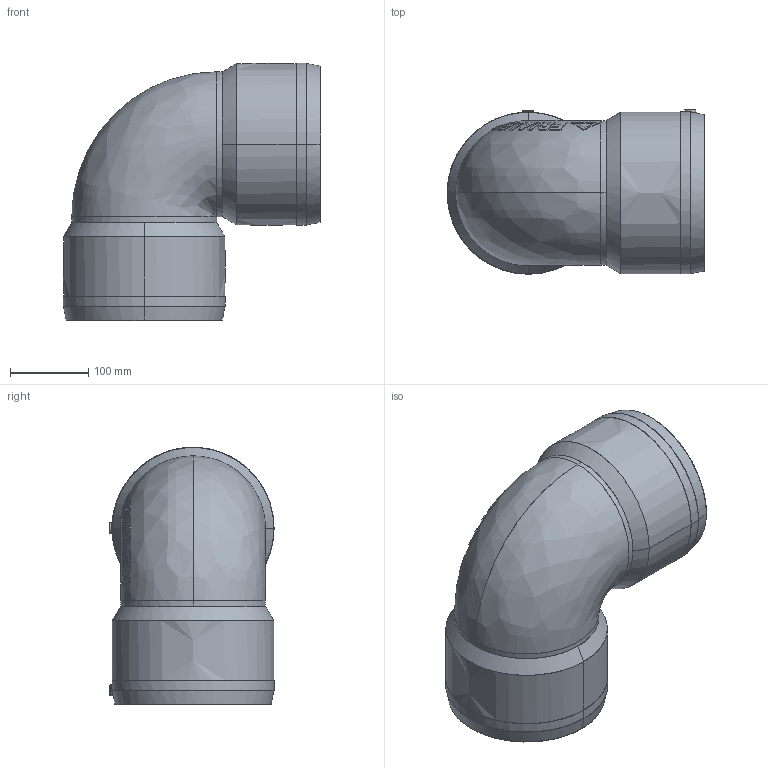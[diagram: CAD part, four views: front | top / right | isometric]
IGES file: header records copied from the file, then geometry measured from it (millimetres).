
Start section:  PTC IGES file: w90_d160_01.igs
Global section: file name: w90_d160_01.igs; native system: Pro/ENGINEER by Parametric Technology Corporation; preprocessor: 2011490; author: mtunjic; organization: Unknown; date: 20130812.091524; units: millimetre
Bounding box: 328.3 x 209.3 x 328.3 mm (x, y, z)
Surface area: 480266.5 mm2 (no closed solid volume)
Topology: 0 solids, 0 shells, 271 faces, 1370 edges, 1368 vertices
Faces by surface type: bspline 271
